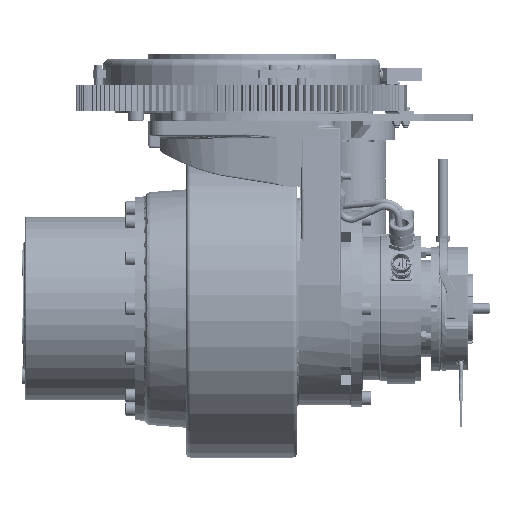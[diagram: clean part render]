
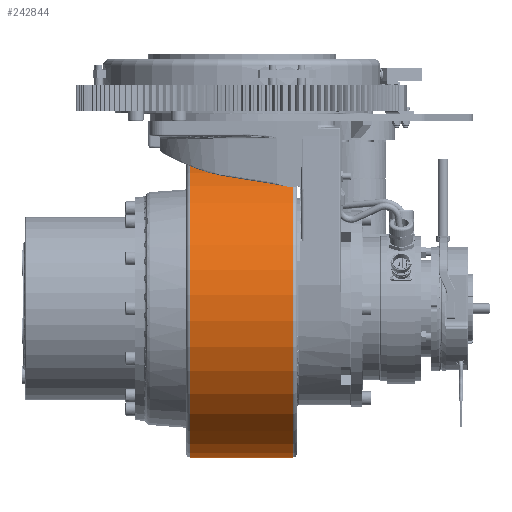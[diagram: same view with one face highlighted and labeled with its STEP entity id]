
A CAD part, front view. The second image highlights one B-rep face of the part: STEP entity #242844.
In plain terms, the highlighted cylindrical face has radius 175 mm (diameter 350 mm), a full revolution.
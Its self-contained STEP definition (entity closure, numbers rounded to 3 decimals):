
#16051=LINE('',#353409,#35877);
#35877=VECTOR('',#283002,175.);
#55675=CYLINDRICAL_SURFACE('',#257148,175.);
#58582=FACE_OUTER_BOUND('',#72472,.T.);
#72472=EDGE_LOOP('',(#158919,#158920,#158921,#158922,#158923,#158924));
#88439=CIRCLE('',#257146,175.);
#88440=CIRCLE('',#257147,175.);
#88441=CIRCLE('',#257149,175.);
#88442=CIRCLE('',#257150,175.);
#100373=VERTEX_POINT('',#353402);
#100374=VERTEX_POINT('',#353404);
#100375=VERTEX_POINT('',#353408);
#100376=VERTEX_POINT('',#353410);
#123516=EDGE_CURVE('',#100373,#100374,#88439,.T.);
#123517=EDGE_CURVE('',#100374,#100373,#88440,.T.);
#123518=EDGE_CURVE('',#100374,#100375,#16051,.T.);
#123519=EDGE_CURVE('',#100376,#100375,#88441,.T.);
#123520=EDGE_CURVE('',#100375,#100376,#88442,.T.);
#158919=ORIENTED_EDGE('',*,*,#123517,.F.);
#158920=ORIENTED_EDGE('',*,*,#123518,.T.);
#158921=ORIENTED_EDGE('',*,*,#123519,.F.);
#158922=ORIENTED_EDGE('',*,*,#123520,.F.);
#158923=ORIENTED_EDGE('',*,*,#123518,.F.);
#158924=ORIENTED_EDGE('',*,*,#123516,.F.);
#242844=ADVANCED_FACE('',(#58582),#55675,.T.);
#257146=AXIS2_PLACEMENT_3D('',#353405,#282996,#282997);
#257147=AXIS2_PLACEMENT_3D('',#353406,#282998,#282999);
#257148=AXIS2_PLACEMENT_3D('',#353407,#283000,#283001);
#257149=AXIS2_PLACEMENT_3D('',#353411,#283003,#283004);
#257150=AXIS2_PLACEMENT_3D('',#353412,#283005,#283006);
#282996=DIRECTION('center_axis',(-1.,0.,0.));
#282997=DIRECTION('ref_axis',(0.,0.261,0.965));
#282998=DIRECTION('center_axis',(-1.,0.,0.));
#282999=DIRECTION('ref_axis',(0.,0.261,0.965));
#283000=DIRECTION('center_axis',(-1.,0.,0.));
#283001=DIRECTION('ref_axis',(0.,-0.261,-0.965));
#283002=DIRECTION('',(1.,0.,0.));
#283003=DIRECTION('center_axis',(1.,0.,0.));
#283004=DIRECTION('ref_axis',(0.,0.261,0.965));
#283005=DIRECTION('center_axis',(1.,0.,0.));
#283006=DIRECTION('ref_axis',(0.,0.261,0.965));
#353402=CARTESIAN_POINT('',(-28.4,-168.924,45.714));
#353404=CARTESIAN_POINT('',(-28.4,45.714,168.924));
#353405=CARTESIAN_POINT('Origin',(-28.4,0.,
0.));
#353406=CARTESIAN_POINT('Origin',(-28.4,0.,
0.));
#353407=CARTESIAN_POINT('Origin',(-0.9,0.,
0.));
#353408=CARTESIAN_POINT('',(91.6,45.714,168.924));
#353409=CARTESIAN_POINT('',(-0.9,45.714,168.924));
#353410=CARTESIAN_POINT('',(91.6,-168.924,45.714));
#353411=CARTESIAN_POINT('Origin',(91.6,0.,
0.));
#353412=CARTESIAN_POINT('Origin',(91.6,0.,
0.));
